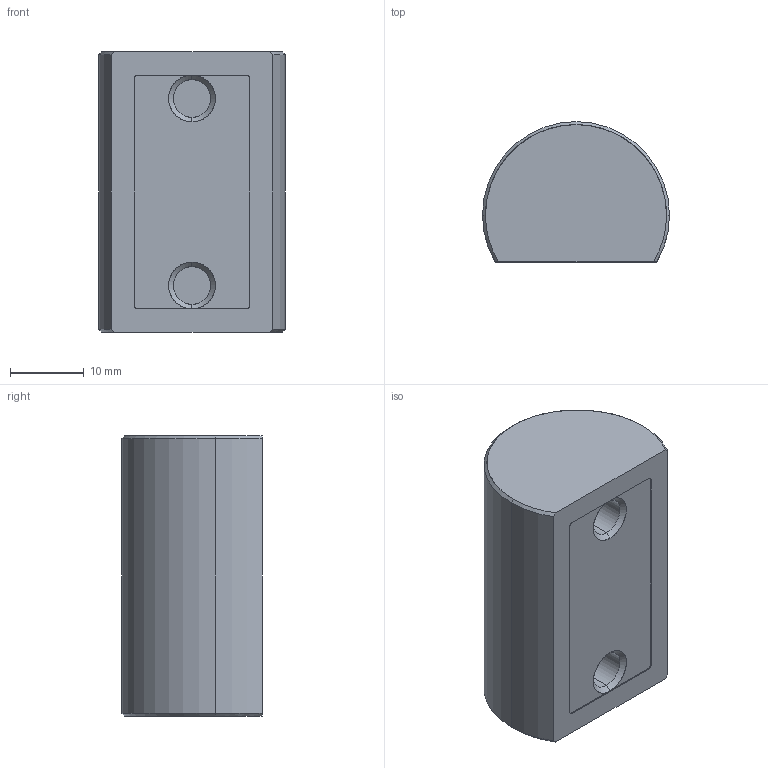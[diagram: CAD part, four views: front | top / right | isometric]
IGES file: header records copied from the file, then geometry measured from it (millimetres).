
Start section: SolidWorks IGES file using analytic representation for surfaces
Global section: file name: D:\Solid_parts\MECHeDESIGN\Bal-Tec\Catalog 105-A\Distribution\IGES\100-TCR-T.IGS; native system: SolidWorks 2005 by SolidWorks Corporation; preprocessor: SolidWorks 2005 by SolidWorks Corporation; author: rvillegas; date: 061205.184400; units: inch
Bounding box: 25.4 x 19.05 x 38.1 mm (x, y, z)
Surface area: 3855.2 mm2 (no closed solid volume)
Topology: 0 solids, 0 shells, 31 faces, 330 edges, 328 vertices
Faces by surface type: revolution 21, bspline 10
